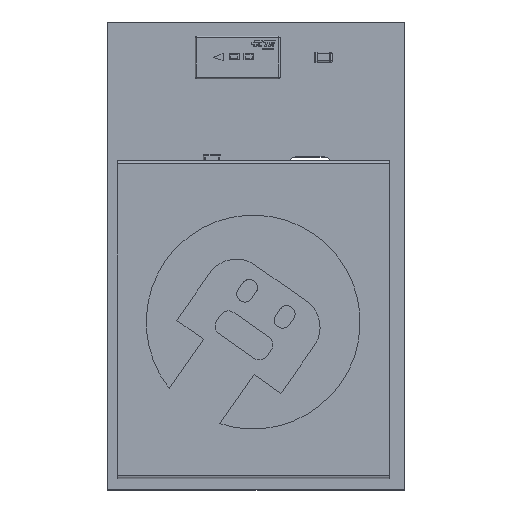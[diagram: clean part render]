
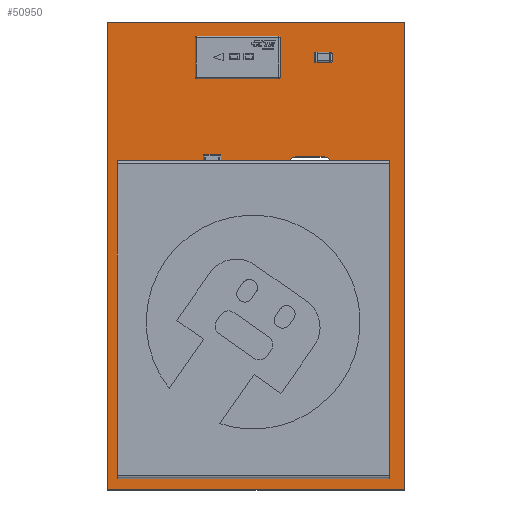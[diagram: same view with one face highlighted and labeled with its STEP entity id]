
A CAD part, top view. The second image highlights one B-rep face of the part: STEP entity #50950.
In plain terms, the highlighted planar face has unit normal (0, 0, 1).
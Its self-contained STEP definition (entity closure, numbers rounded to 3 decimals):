
#648 = EDGE_CURVE ( 'NONE', #28686, #23252, #93356, .T. ) ;
#2470 = DIRECTION ( 'NONE',  ( 0., 1., 0. ) ) ;
#3490 = ORIENTED_EDGE ( 'NONE', *, *, #86695, .F. ) ;
#3907 = DIRECTION ( 'NONE',  ( 0., -1., 0. ) ) ;
#5189 = CARTESIAN_POINT ( 'NONE',  ( 6.649, 11.24, 0. ) ) ;
#5686 = DIRECTION ( 'NONE',  ( 1., 0., 0. ) ) ;
#7336 = DIRECTION ( 'NONE',  ( 0., -1., 0. ) ) ;
#9080 = LINE ( 'NONE', #40807, #75004 ) ;
#11610 = ORIENTED_EDGE ( 'NONE', *, *, #24608, .F. ) ;
#12065 = FACE_OUTER_BOUND ( 'NONE', #48946, .T. ) ;
#12087 = VERTEX_POINT ( 'NONE', #59564 ) ;
#12378 = CIRCLE ( 'NONE', #22374, 0.25 ) ;
#13382 = VECTOR ( 'NONE', #13450, 1000. ) ;
#13450 = DIRECTION ( 'NONE',  ( 0., 1., 0. ) ) ;
#14179 = DIRECTION ( 'NONE',  ( -1., 0., 0. ) ) ;
#14995 = CARTESIAN_POINT ( 'NONE',  ( 10.5, 16.5, 0. ) ) ;
#15544 = VECTOR ( 'NONE', #87327, 1000. ) ;
#16731 = VECTOR ( 'NONE', #5686, 1000. ) ;
#18288 = CARTESIAN_POINT ( 'NONE',  ( 0., 16.5, 0. ) ) ;
#18581 = CARTESIAN_POINT ( 'NONE',  ( 7.649, 11.24, 0. ) ) ;
#20331 = AXIS2_PLACEMENT_3D ( 'NONE', #89384, #41992, #2470 ) ;
#22374 = AXIS2_PLACEMENT_3D ( 'NONE', #26839, #90327, #3907 ) ;
#23252 = VERTEX_POINT ( 'NONE', #67642 ) ;
#23458 = CARTESIAN_POINT ( 'NONE',  ( 5.25, 8.25, 0. ) ) ;
#24608 = EDGE_CURVE ( 'NONE', #35223, #68751, #9080, .T. ) ;
#26839 = CARTESIAN_POINT ( 'NONE',  ( 7.649, 11.49, 0. ) ) ;
#28686 = VERTEX_POINT ( 'NONE', #42245 ) ;
#30396 = EDGE_CURVE ( 'NONE', #93088, #57902, #52027, .T. ) ;
#32104 = CARTESIAN_POINT ( 'NONE',  ( 6.649, 11.24, 0. ) ) ;
#34069 = ORIENTED_EDGE ( 'NONE', *, *, #66084, .F. ) ;
#34710 = EDGE_CURVE ( 'NONE', #57902, #35223, #12378, .T. ) ;
#35223 = VERTEX_POINT ( 'NONE', #90975 ) ;
#36850 = CARTESIAN_POINT ( 'NONE',  ( 0., 0., 0. ) ) ;
#40807 = CARTESIAN_POINT ( 'NONE',  ( 7.649, 11.74, 0. ) ) ;
#41756 = CARTESIAN_POINT ( 'NONE',  ( 0., 16.5, 0. ) ) ;
#41992 = DIRECTION ( 'NONE',  ( 0., 0., 1. ) ) ;
#42245 = CARTESIAN_POINT ( 'NONE',  ( 10.5, 0., 0. ) ) ;
#44309 = FACE_BOUND ( 'NONE', #81360, .T. ) ;
#44679 = LINE ( 'NONE', #36850, #13382 ) ;
#48946 = EDGE_LOOP ( 'NONE', ( #69052, #3490, #34069, #91197 ) ) ;
#50950 = ADVANCED_FACE ( 'NONE', ( #44309, #12065 ), #52648, .F. ) ;
#51925 = CIRCLE ( 'NONE', #20331, 0.25 ) ;
#52027 = LINE ( 'NONE', #5189, #16731 ) ;
#52648 = PLANE ( 'NONE',  #62507 ) ;
#53725 = CARTESIAN_POINT ( 'NONE',  ( 10.5, 0., 0. ) ) ;
#56446 = EDGE_CURVE ( 'NONE', #68751, #93088, #51925, .T. ) ;
#56906 = DIRECTION ( 'NONE',  ( 1., 0., 0. ) ) ;
#57902 = VERTEX_POINT ( 'NONE', #18581 ) ;
#58175 = ORIENTED_EDGE ( 'NONE', *, *, #34710, .F. ) ;
#59251 = CARTESIAN_POINT ( 'NONE',  ( 6.649, 11.74, 0. ) ) ;
#59564 = CARTESIAN_POINT ( 'NONE',  ( 10.5, 16.5, 0. ) ) ;
#62420 = LINE ( 'NONE', #14995, #15544 ) ;
#62475 = ORIENTED_EDGE ( 'NONE', *, *, #30396, .F. ) ;
#62507 = AXIS2_PLACEMENT_3D ( 'NONE', #23458, #93776, #7336 ) ;
#64782 = LINE ( 'NONE', #41756, #74830 ) ;
#66084 = EDGE_CURVE ( 'NONE', #97145, #12087, #64782, .T. ) ;
#67016 = EDGE_CURVE ( 'NONE', #23252, #97145, #44679, .T. ) ;
#67642 = CARTESIAN_POINT ( 'NONE',  ( 0., 0., 0. ) ) ;
#68751 = VERTEX_POINT ( 'NONE', #59251 ) ;
#69052 = ORIENTED_EDGE ( 'NONE', *, *, #648, .F. ) ;
#72644 = DIRECTION ( 'NONE',  ( -1., 0., 0. ) ) ;
#74830 = VECTOR ( 'NONE', #56906, 1000. ) ;
#75004 = VECTOR ( 'NONE', #72644, 1000. ) ;
#81360 = EDGE_LOOP ( 'NONE', ( #84913, #11610, #58175, #62475 ) ) ;
#84913 = ORIENTED_EDGE ( 'NONE', *, *, #56446, .F. ) ;
#86695 = EDGE_CURVE ( 'NONE', #12087, #28686, #62420, .T. ) ;
#87327 = DIRECTION ( 'NONE',  ( 0., -1., 0. ) ) ;
#89384 = CARTESIAN_POINT ( 'NONE',  ( 6.649, 11.49, 0. ) ) ;
#90327 = DIRECTION ( 'NONE',  ( 0., 0., 1. ) ) ;
#90975 = CARTESIAN_POINT ( 'NONE',  ( 7.649, 11.74, 0. ) ) ;
#91197 = ORIENTED_EDGE ( 'NONE', *, *, #67016, .F. ) ;
#93088 = VERTEX_POINT ( 'NONE', #32104 ) ;
#93356 = LINE ( 'NONE', #53725, #93479 ) ;
#93479 = VECTOR ( 'NONE', #14179, 1000. ) ;
#93776 = DIRECTION ( 'NONE',  ( 0., 0., -1. ) ) ;
#97145 = VERTEX_POINT ( 'NONE', #18288 ) ;
